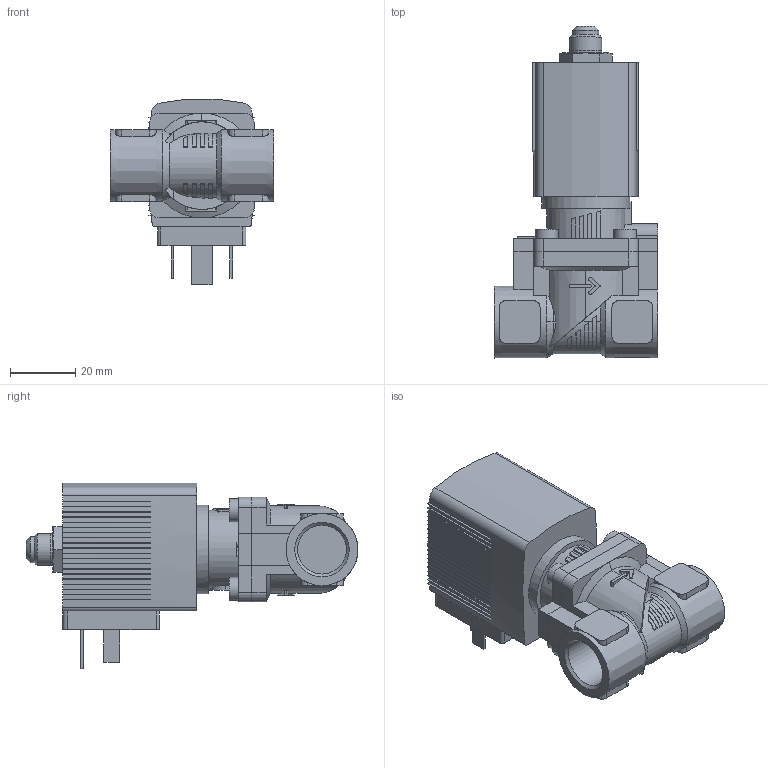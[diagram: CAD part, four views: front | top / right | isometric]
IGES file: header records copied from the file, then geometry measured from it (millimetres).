
Start section: Data from Parasolid IGES Translator 26.0.171, Copyright(c) 2006 Siemens PLM Software. All Rights Reserved.
Global section: file name: 6281-330986-2_2-Way_Solenoid_Valve__Servo-assisted__General_Purpose.igs; native system: By Siemens PLM Incorporated; preprocessor: XPlus GENERIC/IGES 26.0.171; author: Noname; organization: Noname; date: 20240517.062437; units: millimetre
Bounding box: 50 x 101.5 x 56.84 mm (x, y, z)
Surface area: 23344 mm2 (no closed solid volume)
Topology: 0 solids, 0 shells, 547 faces, 3050 edges, 3036 vertices
Faces by surface type: extrusion 426, revolution 121
